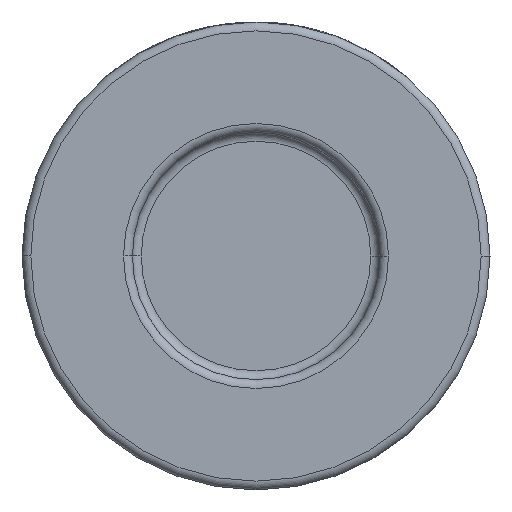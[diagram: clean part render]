
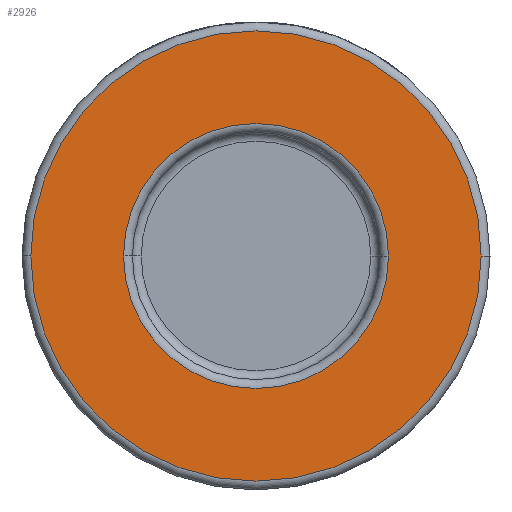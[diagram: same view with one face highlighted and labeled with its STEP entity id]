
A CAD part, front view. The second image highlights one B-rep face of the part: STEP entity #2926.
In plain terms, the highlighted planar face has unit normal (0, -1, 0).
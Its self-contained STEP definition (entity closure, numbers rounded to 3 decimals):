
#48 = CIRCLE ( 'NONE', #1576, 15. ) ;
#77 = CARTESIAN_POINT ( 'NONE',  ( 0., -20., 0. ) ) ;
#141 = DIRECTION ( 'NONE',  ( 0., 1., 0. ) ) ;
#168 = DIRECTION ( 'NONE',  ( 0., -1., 0. ) ) ;
#255 = VERTEX_POINT ( 'NONE', #2294 ) ;
#295 = VERTEX_POINT ( 'NONE', #3774 ) ;
#579 = DIRECTION ( 'NONE',  ( 1., 0., 0. ) ) ;
#622 = CIRCLE ( 'NONE', #3776, 25.5 ) ;
#772 = AXIS2_PLACEMENT_3D ( 'NONE', #3691, #141, #1906 ) ;
#773 = VERTEX_POINT ( 'NONE', #3520 ) ;
#985 = EDGE_CURVE ( 'NONE', #255, #773, #48, .T. ) ;
#1129 = DIRECTION ( 'NONE',  ( 1., 0., 0. ) ) ;
#1142 = EDGE_CURVE ( 'NONE', #2200, #295, #622, .T. ) ;
#1203 = PLANE ( 'NONE',  #2253 ) ;
#1206 = EDGE_LOOP ( 'NONE', ( #4299, #1527 ) ) ;
#1220 = CIRCLE ( 'NONE', #1583, 25.5 ) ;
#1407 = ORIENTED_EDGE ( 'NONE', *, *, #2525, .T. ) ;
#1473 = DIRECTION ( 'NONE',  ( 0., -1., 0. ) ) ;
#1527 = ORIENTED_EDGE ( 'NONE', *, *, #985, .T. ) ;
#1576 = AXIS2_PLACEMENT_3D ( 'NONE', #3263, #2555, #3954 ) ;
#1583 = AXIS2_PLACEMENT_3D ( 'NONE', #77, #1473, #2524 ) ;
#1674 = EDGE_CURVE ( 'NONE', #773, #255, #2094, .T. ) ;
#1728 = CARTESIAN_POINT ( 'NONE',  ( -25.5, -20., 0. ) ) ;
#1819 = EDGE_LOOP ( 'NONE', ( #1407, #2289 ) ) ;
#1906 = DIRECTION ( 'NONE',  ( 1., 0., 0. ) ) ;
#1936 = FACE_OUTER_BOUND ( 'NONE', #1819, .T. ) ;
#2094 = CIRCLE ( 'NONE', #772, 15. ) ;
#2200 = VERTEX_POINT ( 'NONE', #1728 ) ;
#2253 = AXIS2_PLACEMENT_3D ( 'NONE', #2941, #168, #579 ) ;
#2289 = ORIENTED_EDGE ( 'NONE', *, *, #1142, .T. ) ;
#2294 = CARTESIAN_POINT ( 'NONE',  ( -15., -20., 0. ) ) ;
#2524 = DIRECTION ( 'NONE',  ( 1., 0., 0. ) ) ;
#2525 = EDGE_CURVE ( 'NONE', #295, #2200, #1220, .T. ) ;
#2555 = DIRECTION ( 'NONE',  ( 0., 1., 0. ) ) ;
#2805 = CARTESIAN_POINT ( 'NONE',  ( 0., -20., 0. ) ) ;
#2926 = ADVANCED_FACE ( 'NONE', ( #3381, #1936 ), #1203, .T. ) ;
#2941 = CARTESIAN_POINT ( 'NONE',  ( 26.5, -20., 0. ) ) ;
#3263 = CARTESIAN_POINT ( 'NONE',  ( 0., -20., 0. ) ) ;
#3381 = FACE_BOUND ( 'NONE', #1206, .T. ) ;
#3515 = DIRECTION ( 'NONE',  ( 0., -1., 0. ) ) ;
#3520 = CARTESIAN_POINT ( 'NONE',  ( 15., -20., 0. ) ) ;
#3691 = CARTESIAN_POINT ( 'NONE',  ( 0., -20., 0. ) ) ;
#3774 = CARTESIAN_POINT ( 'NONE',  ( 25.5, -20., 0. ) ) ;
#3776 = AXIS2_PLACEMENT_3D ( 'NONE', #2805, #3515, #1129 ) ;
#3954 = DIRECTION ( 'NONE',  ( 1., 0., 0. ) ) ;
#4299 = ORIENTED_EDGE ( 'NONE', *, *, #1674, .T. ) ;
